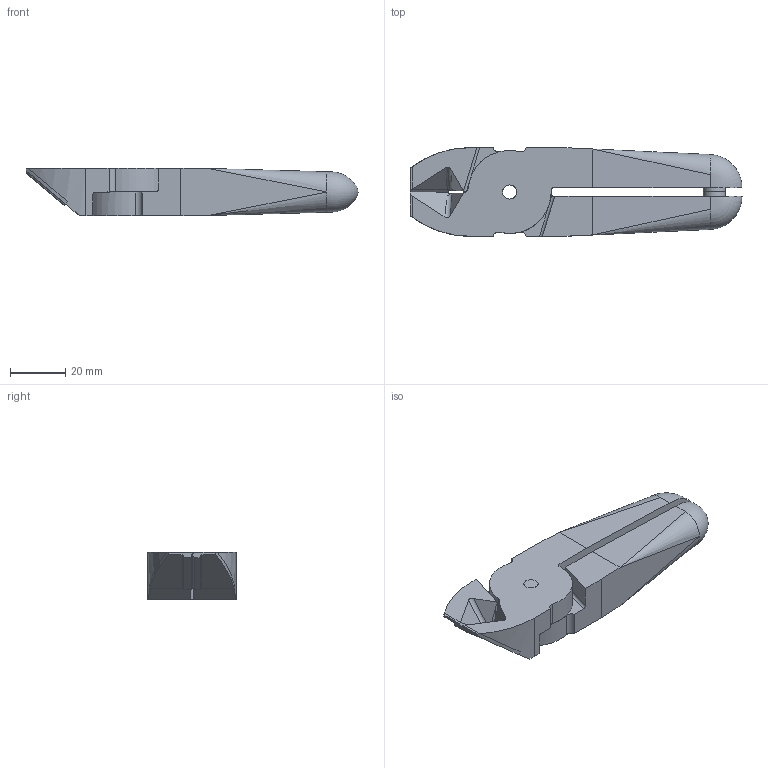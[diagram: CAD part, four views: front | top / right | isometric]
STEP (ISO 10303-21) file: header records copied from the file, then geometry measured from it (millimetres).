
FILE_DESCRIPTION (( 'STEP AP214' ), '1' );
FILE_NAME ('N30BBB.STEP', '2019-11-29T02:45:18', ( '微软用户' ), ( '微软中国' ), 'SwSTEP 2.0', 'SolidWorks 2016', '' );
FILE_SCHEMA (( 'AUTOMOTIVE_DESIGN' ));
Length unit declared in the file: millimetre
Products named in the file (1): N30BBB
Bounding box: 119.99 x 32 x 17 mm (x, y, z)
Surface area: 15861.2 mm2 (no closed solid volume)
Topology: 0 solids, 7 shells, 94 faces, 304 edges, 204 vertices
Faces by surface type: plane 62, cylinder 23, bspline 9
Full cylindrical faces by diameter (mm): 5.1 x2
Entity records: 7199 total; most frequent: CARTESIAN_POINT 4079, ORIENTED_EDGE 530, DIRECTION 435, EDGE_CURVE 299, VERTEX_POINT 208, VECTOR 177, LINE 177, AXIS2_PLACEMENT_3D 129
